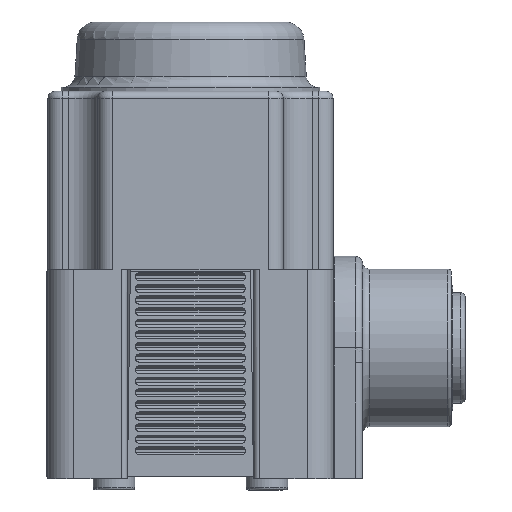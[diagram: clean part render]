
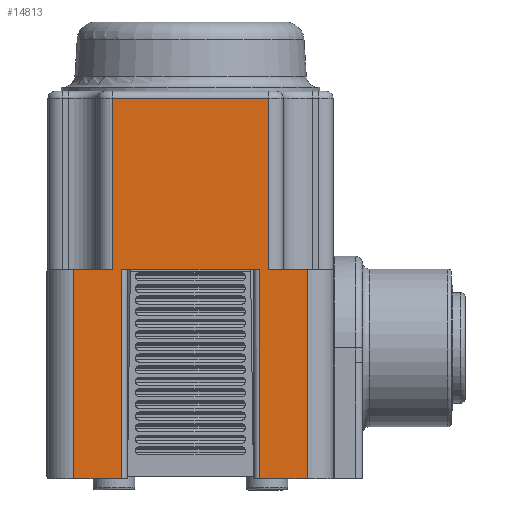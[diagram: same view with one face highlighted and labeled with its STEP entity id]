
A CAD part, left-side view. The second image highlights one B-rep face of the part: STEP entity #14813.
In plain terms, the highlighted planar face has unit normal (-1, 0, 0).
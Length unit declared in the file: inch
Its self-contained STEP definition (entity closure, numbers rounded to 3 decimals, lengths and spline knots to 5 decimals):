
#868=PLANE('',#16365);
#1647=FACE_OUTER_BOUND('',#2542,.T.);
#2542=EDGE_LOOP('',(#12792,#12793,#12794,#12795,#12796,#12797,#12798,#12799,
#12800,#12801,#12802,#12803));
#4230=LINE('',#26648,#5222);
#4243=LINE('',#26718,#5235);
#4359=LINE('',#28291,#5351);
#4376=LINE('',#28350,#5368);
#4377=LINE('',#28354,#5369);
#4380=LINE('',#28373,#5372);
#4393=LINE('',#28449,#5385);
#4394=LINE('',#28453,#5386);
#4395=LINE('',#28454,#5387);
#4396=LINE('',#28456,#5388);
#4397=LINE('',#28458,#5389);
#4398=LINE('',#28459,#5390);
#5222=VECTOR('',#19806,0.3937);
#5235=VECTOR('',#19889,0.3937);
#5351=VECTOR('',#20199,0.3937);
#5368=VECTOR('',#20270,0.3937);
#5369=VECTOR('',#20275,0.3937);
#5372=VECTOR('',#20296,0.3937);
#5385=VECTOR('',#20397,0.3937);
#5386=VECTOR('',#20402,0.3937);
#5387=VECTOR('',#20403,0.3937);
#5388=VECTOR('',#20404,0.3937);
#5389=VECTOR('',#20405,0.3937);
#5390=VECTOR('',#20406,0.3937);
#6552=VERTEX_POINT('',#26640);
#6554=VERTEX_POINT('',#26646);
#6576=VERTEX_POINT('',#26716);
#6706=VERTEX_POINT('',#28288);
#6707=VERTEX_POINT('',#28290);
#6722=VERTEX_POINT('',#28349);
#6723=VERTEX_POINT('',#28353);
#6730=VERTEX_POINT('',#28371);
#6749=VERTEX_POINT('',#28448);
#6750=VERTEX_POINT('',#28452);
#6751=VERTEX_POINT('',#28455);
#6752=VERTEX_POINT('',#28457);
#8482=EDGE_CURVE('',#6554,#6552,#4230,.T.);
#8518=EDGE_CURVE('',#6576,#6554,#4243,.T.);
#8720=EDGE_CURVE('',#6707,#6706,#4359,.T.);
#8749=EDGE_CURVE('',#6722,#6552,#4376,.T.);
#8751=EDGE_CURVE('',#6723,#6722,#4377,.T.);
#8761=EDGE_CURVE('',#6576,#6730,#4380,.T.);
#8799=EDGE_CURVE('',#6749,#6707,#4393,.T.);
#8801=EDGE_CURVE('',#6750,#6730,#4394,.T.);
#8802=EDGE_CURVE('',#6749,#6750,#4395,.T.);
#8803=EDGE_CURVE('',#6751,#6706,#4396,.T.);
#8804=EDGE_CURVE('',#6751,#6752,#4397,.T.);
#8805=EDGE_CURVE('',#6752,#6723,#4398,.T.);
#12792=ORIENTED_EDGE('',*,*,#8482,.F.);
#12793=ORIENTED_EDGE('',*,*,#8518,.F.);
#12794=ORIENTED_EDGE('',*,*,#8761,.T.);
#12795=ORIENTED_EDGE('',*,*,#8801,.F.);
#12796=ORIENTED_EDGE('',*,*,#8802,.F.);
#12797=ORIENTED_EDGE('',*,*,#8799,.T.);
#12798=ORIENTED_EDGE('',*,*,#8720,.T.);
#12799=ORIENTED_EDGE('',*,*,#8803,.F.);
#12800=ORIENTED_EDGE('',*,*,#8804,.T.);
#12801=ORIENTED_EDGE('',*,*,#8805,.T.);
#12802=ORIENTED_EDGE('',*,*,#8751,.T.);
#12803=ORIENTED_EDGE('',*,*,#8749,.T.);
#14813=ADVANCED_FACE('',(#1647),#868,.T.);
#16365=AXIS2_PLACEMENT_3D('',#28451,#20400,#20401);
#19806=DIRECTION('',(0.,-1.,0.));
#19889=DIRECTION('',(0.,0.,1.));
#20199=DIRECTION('',(0.,-1.,0.));
#20270=DIRECTION('',(0.,0.,1.));
#20275=DIRECTION('',(0.,1.,0.));
#20296=DIRECTION('',(0.,1.,0.));
#20397=DIRECTION('',(0.,0.,1.));
#20400=DIRECTION('center_axis',(-1.,0.,0.));
#20401=DIRECTION('ref_axis',(0.,0.,1.));
#20402=DIRECTION('',(0.,0.,1.));
#20403=DIRECTION('',(0.,1.,0.));
#20404=DIRECTION('',(0.,0.,1.));
#20405=DIRECTION('',(0.,-1.,0.));
#20406=DIRECTION('',(0.,0.,1.));
#26640=CARTESIAN_POINT('',(-1.17584,-0.3377,0.6733));
#26646=CARTESIAN_POINT('',(-1.17584,0.3303,0.6733));
#26648=CARTESIAN_POINT('',(-1.17584,0.3303,0.6733));
#26716=CARTESIAN_POINT('',(-1.17584,0.3303,-0.0587));
#26718=CARTESIAN_POINT('',(-1.17584,0.3303,-0.0587));
#28288=CARTESIAN_POINT('',(-1.17584,-0.2977,-0.0587));
#28290=CARTESIAN_POINT('',(-1.17584,0.2903,-0.0587));
#28291=CARTESIAN_POINT('',(-1.17584,0.2903,-0.0587));
#28349=CARTESIAN_POINT('',(-1.17584,-0.3377,-0.0587));
#28350=CARTESIAN_POINT('',(-1.17584,-0.3377,-0.0587));
#28353=CARTESIAN_POINT('',(-1.17584,-0.5027,-0.0587));
#28354=CARTESIAN_POINT('',(-1.17584,-0.5027,-0.0587));
#28371=CARTESIAN_POINT('',(-1.17584,0.4953,-0.0587));
#28373=CARTESIAN_POINT('',(-1.17584,0.3303,-0.0587));
#28448=CARTESIAN_POINT('',(-1.17584,0.2903,-0.9527));
#28449=CARTESIAN_POINT('',(-1.17584,0.2903,-0.9527));
#28451=CARTESIAN_POINT('Origin',(-1.17584,-0.5031,-0.1397));
#28452=CARTESIAN_POINT('',(-1.17584,0.4953,-0.9527));
#28453=CARTESIAN_POINT('',(-1.17584,0.4953,-0.9527));
#28454=CARTESIAN_POINT('',(-1.17584,0.2903,-0.9527));
#28455=CARTESIAN_POINT('',(-1.17584,-0.2977,-0.9527));
#28456=CARTESIAN_POINT('',(-1.17584,-0.2977,-0.9527));
#28457=CARTESIAN_POINT('',(-1.17584,-0.5027,-0.9527));
#28458=CARTESIAN_POINT('',(-1.17584,-0.2977,-0.9527));
#28459=CARTESIAN_POINT('',(-1.17584,-0.5027,-0.9527));
